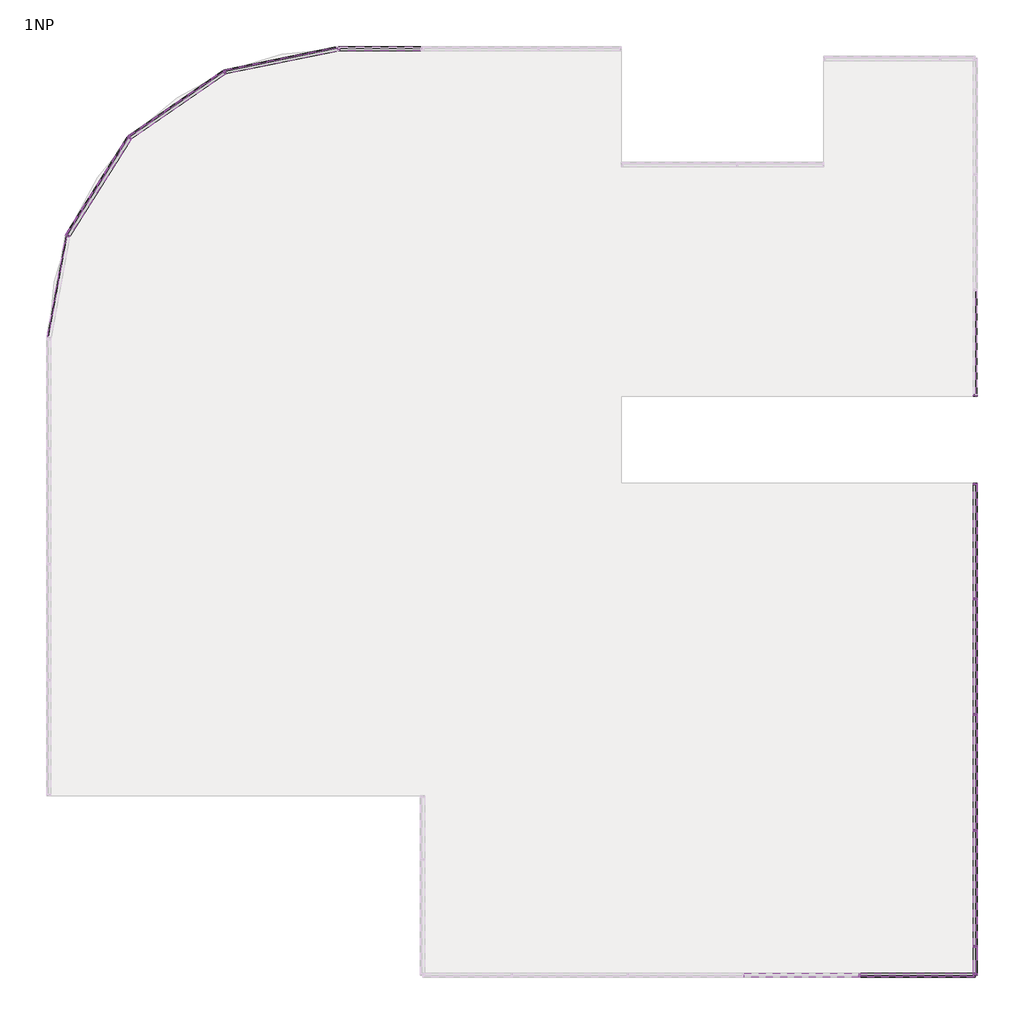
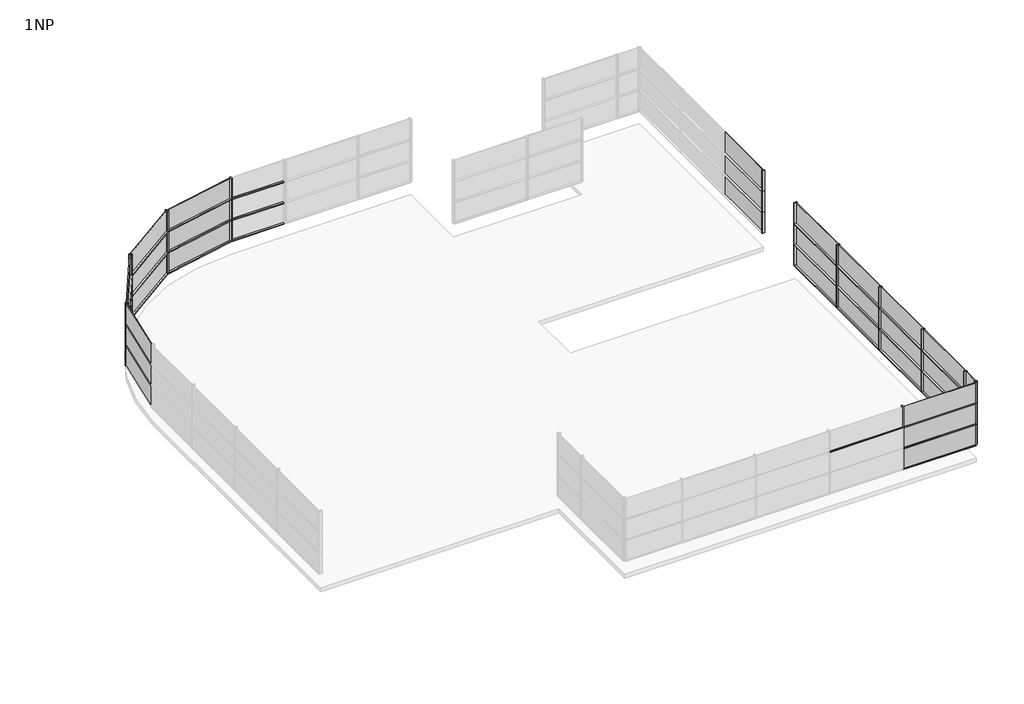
# One storey, part 2 of 4: 68 members, 33 plates.
"""IFC4 building model written with IfcOpenShell, lengths in millimetres."""

from ifc_helpers import new_model, si_unit, origin, place, context, project, spatial, transform, mapped, element, save
from components import rectangular_mullion_50_x_150mm_d99dc9be, rectangular_mullion_50_x_150mm_6588f46c, rectangular_mullion_50_x_150mm_a037c29c, rectangular_mullion_50_x_150mm_c2546fd4, rectangular_mullion_50_x_150mm_116cff39, rectangular_mullion_50_x_150mm_6d604593, rectangular_mullion_50_x_150mm_99029072, rectangular_mullion_50_x_150mm_662445cf, system_panel_glazed_8e9402eb, system_panel_glazed_89ac83a7, system_panel_glazed_5566c609, system_panel_glazed_8c18451d, system_panel_glazed_f47374c1, system_panel_glazed_c3dc520e, system_panel_glazed_01c601c5

model = new_model("IFC4")

# Units and contexts
model_context = context("Model", 3, world=origin())
ifc_project = project(units=[si_unit("LENGTHUNIT", "METRE", prefix="MILLI")], contexts=[model_context])

# Site, building, storey
site = spatial("IfcSite", under=ifc_project)
building = spatial("IfcBuilding", under=site)
storey = spatial("IfcBuildingStorey", under=building, Name="1NP", Elevation=4000.0)

# Members
placement = place(None, origin())
rectangular_mullion_50_x_150mm_shape = rectangular_mullion_50_x_150mm_d99dc9be(model_context)
element("IfcMember", 1, ObjectType="Rectangular Mullion : 50 x 150mm", at=placement, inside=storey, context=model_context, shape_type="MappedRepresentation", body=[
    mapped(rectangular_mullion_50_x_150mm_shape, transform((13503.2660975, -10624.0160434, 6000.0), x_axis=(0.0, -1.0, 0.0), y_axis=(1.0, 0.0, 0.0), z_axis=(0.0, 0.0, 1.0))),
])
element("IfcMember", 2, ObjectType="Rectangular Mullion : 50 x 150mm", at=placement, inside=storey, context=model_context, shape_type="MappedRepresentation", body=[
    mapped(rectangular_mullion_50_x_150mm_shape, transform((13503.2660975, -10624.0160434, 7200.0), x_axis=(0.0, -1.0, 0.0), y_axis=(1.0, 0.0, 0.0), z_axis=(0.0, 0.0, 1.0))),
])
element("IfcMember", 3, ObjectType="Rectangular Mullion : 50 x 150mm", at=placement, inside=storey, context=model_context, shape_type="MappedRepresentation", body=[
    mapped(rectangular_mullion_50_x_150mm_shape, transform((13503.2660975, -10624.0160434, 8400.0), x_axis=(0.0, -1.0, 0.0), y_axis=(1.0, 0.0, 0.0), z_axis=(0.0, 0.0, 1.0))),
])
element("IfcMember", 4, ObjectType="Rectangular Mullion : 50 x 150mm", at=placement, inside=storey, context=model_context, shape_type="MappedRepresentation", body=[
    mapped(rectangular_mullion_50_x_150mm_shape, transform((13503.2660975, -14624.0160434, 6000.0), x_axis=(0.0, -1.0, 0.0), y_axis=(1.0, 0.0, 0.0), z_axis=(0.0, 0.0, 1.0))),
])
element("IfcMember", 5, ObjectType="Rectangular Mullion : 50 x 150mm", at=placement, inside=storey, context=model_context, shape_type="MappedRepresentation", body=[
    mapped(rectangular_mullion_50_x_150mm_shape, transform((13503.2660975, -14624.0160434, 7200.0), x_axis=(0.0, -1.0, 0.0), y_axis=(1.0, 0.0, 0.0), z_axis=(0.0, 0.0, 1.0))),
])
element("IfcMember", 6, ObjectType="Rectangular Mullion : 50 x 150mm", at=placement, inside=storey, context=model_context, shape_type="MappedRepresentation", body=[
    mapped(rectangular_mullion_50_x_150mm_shape, transform((13503.2660975, -14624.0160434, 8400.0), x_axis=(0.0, -1.0, 0.0), y_axis=(1.0, 0.0, 0.0), z_axis=(0.0, 0.0, 1.0))),
])
element("IfcMember", 7, ObjectType="Rectangular Mullion : 50 x 150mm", at=placement, inside=storey, context=model_context, shape_type="MappedRepresentation", body=[
    mapped(rectangular_mullion_50_x_150mm_shape, transform((13503.2660975, -18624.0160434, 6000.0), x_axis=(0.0, -1.0, 0.0), y_axis=(1.0, 0.0, 0.0), z_axis=(0.0, 0.0, 1.0))),
])
element("IfcMember", 8, ObjectType="Rectangular Mullion : 50 x 150mm", at=placement, inside=storey, context=model_context, shape_type="MappedRepresentation", body=[
    mapped(rectangular_mullion_50_x_150mm_shape, transform((13503.2660975, -18624.0160434, 7200.0), x_axis=(0.0, -1.0, 0.0), y_axis=(1.0, 0.0, 0.0), z_axis=(0.0, 0.0, 1.0))),
])
element("IfcMember", 9, ObjectType="Rectangular Mullion : 50 x 150mm", at=placement, inside=storey, context=model_context, shape_type="MappedRepresentation", body=[
    mapped(rectangular_mullion_50_x_150mm_shape, transform((13503.2660975, -18624.0160434, 8400.0), x_axis=(0.0, -1.0, 0.0), y_axis=(1.0, 0.0, 0.0), z_axis=(0.0, 0.0, 1.0))),
])
element("IfcMember", 10, ObjectType="Rectangular Mullion : 50 x 150mm", at=placement, inside=storey, context=model_context, shape_type="MappedRepresentation", body=[
    mapped(rectangular_mullion_50_x_150mm_shape, transform((13503.2660975, -22624.0160434, 6000.0), x_axis=(0.0, -1.0, 0.0), y_axis=(1.0, 0.0, 0.0), z_axis=(0.0, 0.0, 1.0))),
])
element("IfcMember", 11, ObjectType="Rectangular Mullion : 50 x 150mm", at=placement, inside=storey, context=model_context, shape_type="MappedRepresentation", body=[
    mapped(rectangular_mullion_50_x_150mm_shape, transform((13503.2660975, -22624.0160434, 7200.0), x_axis=(0.0, -1.0, 0.0), y_axis=(1.0, 0.0, 0.0), z_axis=(0.0, 0.0, 1.0))),
])
element("IfcMember", 12, ObjectType="Rectangular Mullion : 50 x 150mm", at=placement, inside=storey, context=model_context, shape_type="MappedRepresentation", body=[
    mapped(rectangular_mullion_50_x_150mm_shape, transform((13503.2660975, -22624.0160434, 8400.0), x_axis=(0.0, -1.0, 0.0), y_axis=(1.0, 0.0, 0.0), z_axis=(0.0, 0.0, 1.0))),
])
element("IfcMember", 13, ObjectType="Rectangular Mullion : 50 x 150mm", at=placement, inside=storey, context=model_context, shape_type="MappedRepresentation", body=[
    mapped(rectangular_mullion_50_x_150mm_shape, transform((9503.2660975, -23624.0160434, 8400.0), x_axis=(-1.0, 0.0, 0.0), y_axis=(0.0, -1.0, 0.0), z_axis=(0.0, 0.0, 1.0))),
])
rectangular_mullion_50_x_150mm_2_shape = rectangular_mullion_50_x_150mm_6588f46c(model_context)
element("IfcMember", 14, ObjectType="Rectangular Mullion : 50 x 150mm", at=placement, inside=storey, context=model_context, shape_type="MappedRepresentation", body=[
    mapped(rectangular_mullion_50_x_150mm_2_shape, transform((13503.2660975, -3624.0160434, 8400.0), x_axis=(0.0, -1.0, 0.0), y_axis=(1.0, 0.0, 0.0), z_axis=(0.0, 0.0, 1.0))),
])
element("IfcMember", 15, ObjectType="Rectangular Mullion : 50 x 150mm", at=placement, inside=storey, context=model_context, shape_type="MappedRepresentation", body=[
    mapped(rectangular_mullion_50_x_150mm_2_shape, transform((13503.2660975, -3624.0160434, 7200.0), x_axis=(0.0, -1.0, 0.0), y_axis=(1.0, 0.0, 0.0), z_axis=(0.0, 0.0, 1.0))),
])
element("IfcMember", 16, ObjectType="Rectangular Mullion : 50 x 150mm", at=placement, inside=storey, context=model_context, shape_type="MappedRepresentation", body=[
    mapped(rectangular_mullion_50_x_150mm_2_shape, transform((13503.2660975, -3624.0160434, 6000.0), x_axis=(0.0, -1.0, 0.0), y_axis=(1.0, 0.0, 0.0), z_axis=(0.0, 0.0, 1.0))),
])
element("IfcMember", 17, ObjectType="Rectangular Mullion : 50 x 150mm", at=placement, inside=storey, context=model_context, shape_type="MappedRepresentation", body=[
    mapped(rectangular_mullion_50_x_150mm_2_shape, transform((13503.2660975, -23624.0160434, 6000.0), x_axis=(0.0, -1.0, 0.0), y_axis=(1.0, 0.0, 0.0), z_axis=(0.0, 0.0, 1.0))),
])
element("IfcMember", 18, ObjectType="Rectangular Mullion : 50 x 150mm", at=placement, inside=storey, context=model_context, shape_type="MappedRepresentation", body=[
    mapped(rectangular_mullion_50_x_150mm_2_shape, transform((13503.2660975, -23624.0160434, 7200.0), x_axis=(0.0, -1.0, 0.0), y_axis=(1.0, 0.0, 0.0), z_axis=(0.0, 0.0, 1.0))),
])
element("IfcMember", 19, ObjectType="Rectangular Mullion : 50 x 150mm", at=placement, inside=storey, context=model_context, shape_type="MappedRepresentation", body=[
    mapped(rectangular_mullion_50_x_150mm_2_shape, transform((13503.2660975, -23624.0160434, 8400.0), x_axis=(0.0, -1.0, 0.0), y_axis=(1.0, 0.0, 0.0), z_axis=(0.0, 0.0, 1.0))),
])
rectangular_mullion_50_x_150mm_3_shape = rectangular_mullion_50_x_150mm_a037c29c(model_context)
element("IfcMember", 20, ObjectType="Rectangular Mullion : 50 x 150mm", at=placement, inside=storey, context=model_context, shape_type="MappedRepresentation", body=[
    mapped(rectangular_mullion_50_x_150mm_3_shape, transform((13503.2660975, -18649.0160434, 6000.0), x_axis=(0.0, 0.0, 1.0), y_axis=(1.0, 0.0, 0.0), z_axis=(0.0, 1.0, 0.0))),
])
element("IfcMember", 21, ObjectType="Rectangular Mullion : 50 x 150mm", at=placement, inside=storey, context=model_context, shape_type="MappedRepresentation", body=[
    mapped(rectangular_mullion_50_x_150mm_3_shape, transform((13503.2660975, -10649.0160434, 7200.0), x_axis=(0.0, 0.0, 1.0), y_axis=(1.0, 0.0, 0.0), z_axis=(0.0, 1.0, 0.0))),
])
element("IfcMember", 22, ObjectType="Rectangular Mullion : 50 x 150mm", at=placement, inside=storey, context=model_context, shape_type="MappedRepresentation", body=[
    mapped(rectangular_mullion_50_x_150mm_3_shape, transform((13503.2660975, -14649.0160434, 7200.0), x_axis=(0.0, 0.0, 1.0), y_axis=(1.0, 0.0, 0.0), z_axis=(0.0, 1.0, 0.0))),
])
element("IfcMember", 23, ObjectType="Rectangular Mullion : 50 x 150mm", at=placement, inside=storey, context=model_context, shape_type="MappedRepresentation", body=[
    mapped(rectangular_mullion_50_x_150mm_3_shape, transform((13503.2660975, -18649.0160434, 7200.0), x_axis=(0.0, 0.0, 1.0), y_axis=(1.0, 0.0, 0.0), z_axis=(0.0, 1.0, 0.0))),
])
element("IfcMember", 24, ObjectType="Rectangular Mullion : 50 x 150mm", at=placement, inside=storey, context=model_context, shape_type="MappedRepresentation", body=[
    mapped(rectangular_mullion_50_x_150mm_3_shape, transform((13503.2660975, -10649.0160434, 4800.0), x_axis=(0.0, 0.0, 1.0), y_axis=(1.0, 0.0, 0.0), z_axis=(0.0, 1.0, 0.0))),
])
element("IfcMember", 25, ObjectType="Rectangular Mullion : 50 x 150mm", at=placement, inside=storey, context=model_context, shape_type="MappedRepresentation", body=[
    mapped(rectangular_mullion_50_x_150mm_3_shape, transform((13503.2660975, -14649.0160434, 4800.0), x_axis=(0.0, 0.0, 1.0), y_axis=(1.0, 0.0, 0.0), z_axis=(0.0, 1.0, 0.0))),
])
element("IfcMember", 26, ObjectType="Rectangular Mullion : 50 x 150mm", at=placement, inside=storey, context=model_context, shape_type="MappedRepresentation", body=[
    mapped(rectangular_mullion_50_x_150mm_3_shape, transform((13503.2660975, -18649.0160434, 4800.0), x_axis=(0.0, 0.0, 1.0), y_axis=(1.0, 0.0, 0.0), z_axis=(0.0, 1.0, 0.0))),
])
element("IfcMember", 27, ObjectType="Rectangular Mullion : 50 x 150mm", at=placement, inside=storey, context=model_context, shape_type="MappedRepresentation", body=[
    mapped(rectangular_mullion_50_x_150mm_3_shape, transform((13503.2660975, -10649.0160434, 6000.0), x_axis=(0.0, 0.0, 1.0), y_axis=(1.0, 0.0, 0.0), z_axis=(0.0, 1.0, 0.0))),
])
element("IfcMember", 28, ObjectType="Rectangular Mullion : 50 x 150mm", at=placement, inside=storey, context=model_context, shape_type="MappedRepresentation", body=[
    mapped(rectangular_mullion_50_x_150mm_3_shape, transform((13503.2660975, -14649.0160434, 6000.0), x_axis=(0.0, 0.0, 1.0), y_axis=(1.0, 0.0, 0.0), z_axis=(0.0, 1.0, 0.0))),
])
element("IfcMember", 29, ObjectType="Rectangular Mullion : 50 x 150mm", at=placement, inside=storey, context=model_context, shape_type="MappedRepresentation", body=[
    mapped(rectangular_mullion_50_x_150mm_3_shape, transform((9478.2660975, -23624.0160434, 7200.0), x_axis=(0.0, 0.0, 1.0), y_axis=(0.0, -1.0, 0.0), z_axis=(1.0, 0.0, 0.0))),
])
rectangular_mullion_50_x_150mm_4_shape = rectangular_mullion_50_x_150mm_c2546fd4(model_context)
element("IfcMember", 30, ObjectType="Rectangular Mullion : 50 x 150mm", at=placement, inside=storey, context=model_context, shape_type="MappedRepresentation", body=[
    mapped(rectangular_mullion_50_x_150mm_4_shape, transform((13503.2660975, -6674.0160434, 7200.0), x_axis=(0.0, 0.0, 1.0), y_axis=(1.0, 0.0, 0.0), z_axis=(0.0, 1.0, 0.0))),
])
element("IfcMember", 31, ObjectType="Rectangular Mullion : 50 x 150mm", at=placement, inside=storey, context=model_context, shape_type="MappedRepresentation", body=[
    mapped(rectangular_mullion_50_x_150mm_4_shape, transform((13503.2660975, -6674.0160434, 4800.0), x_axis=(0.0, 0.0, 1.0), y_axis=(1.0, 0.0, 0.0), z_axis=(0.0, 1.0, 0.0))),
])
element("IfcMember", 32, ObjectType="Rectangular Mullion : 50 x 150mm", at=placement, inside=storey, context=model_context, shape_type="MappedRepresentation", body=[
    mapped(rectangular_mullion_50_x_150mm_4_shape, transform((13503.2660975, -6674.0160434, 6000.0), x_axis=(0.0, 0.0, 1.0), y_axis=(1.0, 0.0, 0.0), z_axis=(0.0, 1.0, 0.0))),
])
element("IfcMember", 33, ObjectType="Rectangular Mullion : 50 x 150mm", at=placement, inside=storey, context=model_context, shape_type="MappedRepresentation", body=[
    mapped(rectangular_mullion_50_x_150mm_4_shape, transform((13453.2660975, -23624.0160434, 4800.0), x_axis=(0.0, 0.0, 1.0), y_axis=(0.0, -1.0, 0.0), z_axis=(1.0, 0.0, 0.0))),
])
element("IfcMember", 34, ObjectType="Rectangular Mullion : 50 x 150mm", at=placement, inside=storey, context=model_context, shape_type="MappedRepresentation", body=[
    mapped(rectangular_mullion_50_x_150mm_4_shape, transform((13453.2660975, -23624.0160434, 6000.0), x_axis=(0.0, 0.0, 1.0), y_axis=(0.0, -1.0, 0.0), z_axis=(1.0, 0.0, 0.0))),
])
element("IfcMember", 35, ObjectType="Rectangular Mullion : 50 x 150mm", at=placement, inside=storey, context=model_context, shape_type="MappedRepresentation", body=[
    mapped(rectangular_mullion_50_x_150mm_4_shape, transform((13453.2660975, -23624.0160434, 7200.0), x_axis=(0.0, 0.0, 1.0), y_axis=(0.0, -1.0, 0.0), z_axis=(1.0, 0.0, 0.0))),
])
element("IfcMember", 36, ObjectType="Rectangular Mullion : 50 x 150mm", at=placement, inside=storey, context=model_context, shape_type="MappedRepresentation", body=[
    mapped(rectangular_mullion_50_x_150mm_2_shape, transform((13503.2660975, -6624.0160434, 4800.0), x_axis=(0.0, 1.0, 0.0), y_axis=(1.0, 0.0, 0.0), z_axis=(0.0, 0.0, -1.0))),
])
element("IfcMember", 37, ObjectType="Rectangular Mullion : 50 x 150mm", at=placement, inside=storey, context=model_context, shape_type="MappedRepresentation", body=[
    mapped(rectangular_mullion_50_x_150mm_2_shape, transform((13503.2660975, -6624.0160434, 6000.0), x_axis=(0.0, 1.0, 0.0), y_axis=(1.0, 0.0, 0.0), z_axis=(0.0, 0.0, -1.0))),
])
element("IfcMember", 38, ObjectType="Rectangular Mullion : 50 x 150mm", at=placement, inside=storey, context=model_context, shape_type="MappedRepresentation", body=[
    mapped(rectangular_mullion_50_x_150mm_2_shape, transform((13503.2660975, -6624.0160434, 7200.0), x_axis=(0.0, 1.0, 0.0), y_axis=(1.0, 0.0, 0.0), z_axis=(0.0, 0.0, -1.0))),
])
element("IfcMember", 39, ObjectType="Rectangular Mullion : 50 x 150mm", at=placement, inside=storey, context=model_context, shape_type="MappedRepresentation", body=[
    mapped(rectangular_mullion_50_x_150mm_2_shape, transform((13503.2660975, -23624.0160434, 4800.0), x_axis=(1.0, 0.0, 0.0), y_axis=(0.0, -1.0, 0.0), z_axis=(0.0, 0.0, -1.0))),
])
element("IfcMember", 40, ObjectType="Rectangular Mullion : 50 x 150mm", at=placement, inside=storey, context=model_context, shape_type="MappedRepresentation", body=[
    mapped(rectangular_mullion_50_x_150mm_2_shape, transform((13503.2660975, -23624.0160434, 6000.0), x_axis=(1.0, 0.0, 0.0), y_axis=(0.0, -1.0, 0.0), z_axis=(0.0, 0.0, -1.0))),
])
element("IfcMember", 41, ObjectType="Rectangular Mullion : 50 x 150mm", at=placement, inside=storey, context=model_context, shape_type="MappedRepresentation", body=[
    mapped(rectangular_mullion_50_x_150mm_2_shape, transform((13503.2660975, -23624.0160434, 7200.0), x_axis=(1.0, 0.0, 0.0), y_axis=(0.0, -1.0, 0.0), z_axis=(0.0, 0.0, -1.0))),
])
element("IfcMember", 42, ObjectType="Rectangular Mullion : 50 x 150mm", at=placement, inside=storey, context=model_context, shape_type="MappedRepresentation", body=[
    mapped(rectangular_mullion_50_x_150mm_2_shape, transform((-8496.7339025, 8375.9839566, 4800.0), x_axis=(-1.0, 0.0, 0.0), y_axis=(0.0, 1.0, 0.0), z_axis=(0.0, 0.0, -1.0))),
])
element("IfcMember", 43, ObjectType="Rectangular Mullion : 50 x 150mm", at=placement, inside=storey, context=model_context, shape_type="MappedRepresentation", body=[
    mapped(rectangular_mullion_50_x_150mm_2_shape, transform((-8496.7339025, 8375.9839566, 6000.0), x_axis=(-1.0, 0.0, 0.0), y_axis=(0.0, 1.0, 0.0), z_axis=(0.0, 0.0, -1.0))),
])
element("IfcMember", 44, ObjectType="Rectangular Mullion : 50 x 150mm", at=placement, inside=storey, context=model_context, shape_type="MappedRepresentation", body=[
    mapped(rectangular_mullion_50_x_150mm_2_shape, transform((-8496.7339025, 8375.9839566, 7200.0), x_axis=(-1.0, 0.0, 0.0), y_axis=(0.0, 1.0, 0.0), z_axis=(0.0, 0.0, -1.0))),
])
rectangular_mullion_50_x_150mm_5_shape = rectangular_mullion_50_x_150mm_116cff39(model_context)
element("IfcMember", 45, ObjectType="Rectangular Mullion : 50 x 150mm", at=placement, inside=storey, context=model_context, shape_type="MappedRepresentation", body=[
    mapped(rectangular_mullion_50_x_150mm_5_shape, transform((13503.2660975, -22649.0160434, 6000.0), x_axis=(0.0, 0.0, 1.0), y_axis=(1.0, 0.0, 0.0), z_axis=(0.0, 1.0, 0.0))),
])
element("IfcMember", 46, ObjectType="Rectangular Mullion : 50 x 150mm", at=placement, inside=storey, context=model_context, shape_type="MappedRepresentation", body=[
    mapped(rectangular_mullion_50_x_150mm_5_shape, transform((13503.2660975, -22649.0160434, 7200.0), x_axis=(0.0, 0.0, 1.0), y_axis=(1.0, 0.0, 0.0), z_axis=(0.0, 1.0, 0.0))),
])
element("IfcMember", 47, ObjectType="Rectangular Mullion : 50 x 150mm", at=placement, inside=storey, context=model_context, shape_type="MappedRepresentation", body=[
    mapped(rectangular_mullion_50_x_150mm_5_shape, transform((13503.2660975, -22649.0160434, 4800.0), x_axis=(0.0, 0.0, 1.0), y_axis=(1.0, 0.0, 0.0), z_axis=(0.0, 1.0, 0.0))),
])
rectangular_mullion_50_x_150mm_6_shape = rectangular_mullion_50_x_150mm_6d604593(model_context)
element("IfcMember", 48, ObjectType="Rectangular Mullion : 50 x 150mm", at=placement, inside=storey, context=model_context, shape_type="MappedRepresentation", body=[
    mapped(rectangular_mullion_50_x_150mm_6_shape, transform((-8446.7339025, 8375.9839566, 4800.0), x_axis=(0.0, 0.0, 1.0), y_axis=(0.0, 1.0, 0.0), z_axis=(-1.0, 0.0, 0.0))),
])
element("IfcMember", 49, ObjectType="Rectangular Mullion : 50 x 150mm", at=placement, inside=storey, context=model_context, shape_type="MappedRepresentation", body=[
    mapped(rectangular_mullion_50_x_150mm_6_shape, transform((-8446.7339025, 8375.9839566, 6000.0), x_axis=(0.0, 0.0, 1.0), y_axis=(0.0, 1.0, 0.0), z_axis=(-1.0, 0.0, 0.0))),
])
element("IfcMember", 50, ObjectType="Rectangular Mullion : 50 x 150mm", at=placement, inside=storey, context=model_context, shape_type="MappedRepresentation", body=[
    mapped(rectangular_mullion_50_x_150mm_6_shape, transform((-8446.7339025, 8375.9839566, 7200.0), x_axis=(0.0, 0.0, 1.0), y_axis=(0.0, 1.0, 0.0), z_axis=(-1.0, 0.0, 0.0))),
])
rectangular_mullion_50_x_150mm_7_shape = rectangular_mullion_50_x_150mm_99029072(model_context)
element("IfcMember", 51, ObjectType="Rectangular Mullion : 50 x 150mm", at=placement, inside=storey, context=model_context, shape_type="MappedRepresentation", body=[
    mapped(rectangular_mullion_50_x_150mm_7_shape, transform((-15687.4559914, 5318.1839566, 4800.0), x_axis=(0.0, 0.0, 1.0), y_axis=(-0.5680000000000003, 0.8230285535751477, 0.0), z_axis=(-0.8230285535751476, -0.5680000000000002, 0.0))),
])
element("IfcMember", 52, ObjectType="Rectangular Mullion : 50 x 150mm", at=placement, inside=storey, context=model_context, shape_type="MappedRepresentation", body=[
    mapped(rectangular_mullion_50_x_150mm_7_shape, transform((-17832.9738551, 1944.6319566, 4800.0), x_axis=(0.0, 0.0, 1.0), y_axis=(-0.84512, 0.534576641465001, 0.0), z_axis=(-0.534576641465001, -0.84512, 0.0))),
])
element("IfcMember", 53, ObjectType="Rectangular Mullion : 50 x 150mm", at=placement, inside=storey, context=model_context, shape_type="MappedRepresentation", body=[
    mapped(rectangular_mullion_50_x_150mm_7_shape, transform((-15687.4559914, 5318.1839566, 6000.0), x_axis=(0.0, 0.0, 1.0), y_axis=(-0.5680000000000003, 0.8230285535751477, 0.0), z_axis=(-0.8230285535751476, -0.5680000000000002, 0.0))),
])
element("IfcMember", 54, ObjectType="Rectangular Mullion : 50 x 150mm", at=placement, inside=storey, context=model_context, shape_type="MappedRepresentation", body=[
    mapped(rectangular_mullion_50_x_150mm_7_shape, transform((-17832.9738551, 1944.6319566, 6000.0), x_axis=(0.0, 0.0, 1.0), y_axis=(-0.84512, 0.534576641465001, 0.0), z_axis=(-0.534576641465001, -0.84512, 0.0))),
])
element("IfcMember", 55, ObjectType="Rectangular Mullion : 50 x 150mm", at=placement, inside=storey, context=model_context, shape_type="MappedRepresentation", body=[
    mapped(rectangular_mullion_50_x_150mm_7_shape, transform((-15687.4559914, 5318.1839566, 7200.0), x_axis=(0.0, 0.0, 1.0), y_axis=(-0.5680000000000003, 0.8230285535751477, 0.0), z_axis=(-0.8230285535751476, -0.5680000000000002, 0.0))),
])
element("IfcMember", 56, ObjectType="Rectangular Mullion : 50 x 150mm", at=placement, inside=storey, context=model_context, shape_type="MappedRepresentation", body=[
    mapped(rectangular_mullion_50_x_150mm_7_shape, transform((-17832.9738551, 1944.6319566, 7200.0), x_axis=(0.0, 0.0, 1.0), y_axis=(-0.84512, 0.534576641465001, 0.0), z_axis=(-0.534576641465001, -0.84512, 0.0))),
])
rectangular_mullion_50_x_150mm_8_shape = rectangular_mullion_50_x_150mm_662445cf(model_context)
element("IfcMember", 57, ObjectType="Rectangular Mullion : 50 x 150mm", at=placement, inside=storey, context=model_context, shape_type="MappedRepresentation", body=[
    mapped(rectangular_mullion_50_x_150mm_8_shape, transform((-12391.4225935, 7580.9839566, 4800.0), x_axis=(0.0, 0.0, 1.0), y_axis=(-0.19999999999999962, 0.9797958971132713, 0.0), z_axis=(-0.9797958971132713, -0.19999999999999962, 0.0))),
])
element("IfcMember", 58, ObjectType="Rectangular Mullion : 50 x 150mm", at=placement, inside=storey, context=model_context, shape_type="MappedRepresentation", body=[
    mapped(rectangular_mullion_50_x_150mm_8_shape, transform((-12391.4225935, 7580.9839566, 6000.0), x_axis=(0.0, 0.0, 1.0), y_axis=(-0.19999999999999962, 0.9797958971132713, 0.0), z_axis=(-0.9797958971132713, -0.19999999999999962, 0.0))),
])
element("IfcMember", 59, ObjectType="Rectangular Mullion : 50 x 150mm", at=placement, inside=storey, context=model_context, shape_type="MappedRepresentation", body=[
    mapped(rectangular_mullion_50_x_150mm_8_shape, transform((-12391.4225935, 7580.9839566, 7200.0), x_axis=(0.0, 0.0, 1.0), y_axis=(-0.19999999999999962, 0.9797958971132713, 0.0), z_axis=(-0.9797958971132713, -0.19999999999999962, 0.0))),
])
element("IfcMember", 60, ObjectType="Rectangular Mullion : 50 x 150mm", at=placement, inside=storey, context=model_context, shape_type="MappedRepresentation", body=[
    mapped(rectangular_mullion_50_x_150mm_shape, transform((-12415.9174909, 7575.9839566, 4800.0), x_axis=(-0.92, -0.3919183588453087, 0.0), y_axis=(-0.3919183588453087, 0.92, 0.0), z_axis=(0.0, 0.0, -1.0))),
])
element("IfcMember", 61, ObjectType="Rectangular Mullion : 50 x 150mm", at=placement, inside=storey, context=model_context, shape_type="MappedRepresentation", body=[
    mapped(rectangular_mullion_50_x_150mm_shape, transform((-12415.9174909, 7575.9839566, 6000.0), x_axis=(-0.92, -0.3919183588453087, 0.0), y_axis=(-0.3919183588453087, 0.92, 0.0), z_axis=(0.0, 0.0, -1.0))),
])
element("IfcMember", 62, ObjectType="Rectangular Mullion : 50 x 150mm", at=placement, inside=storey, context=model_context, shape_type="MappedRepresentation", body=[
    mapped(rectangular_mullion_50_x_150mm_shape, transform((-12415.9174909, 7575.9839566, 7200.0), x_axis=(-0.92, -0.3919183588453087, 0.0), y_axis=(-0.3919183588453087, 0.92, 0.0), z_axis=(0.0, 0.0, -1.0))),
])
element("IfcMember", 63, ObjectType="Rectangular Mullion : 50 x 150mm", at=placement, inside=storey, context=model_context, shape_type="MappedRepresentation", body=[
    mapped(rectangular_mullion_50_x_150mm_shape, transform((-15708.0317052, 5303.9839566, 4800.0), x_axis=(-0.6927999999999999, -0.7211297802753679, 0.0), y_axis=(-0.7211297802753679, 0.6927999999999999, 0.0), z_axis=(0.0, 0.0, -1.0))),
])
element("IfcMember", 64, ObjectType="Rectangular Mullion : 50 x 150mm", at=placement, inside=storey, context=model_context, shape_type="MappedRepresentation", body=[
    mapped(rectangular_mullion_50_x_150mm_shape, transform((-15708.0317052, 5303.9839566, 6000.0), x_axis=(-0.6927999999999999, -0.7211297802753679, 0.0), y_axis=(-0.7211297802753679, 0.6927999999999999, 0.0), z_axis=(0.0, 0.0, -1.0))),
])
element("IfcMember", 65, ObjectType="Rectangular Mullion : 50 x 150mm", at=placement, inside=storey, context=model_context, shape_type="MappedRepresentation", body=[
    mapped(rectangular_mullion_50_x_150mm_shape, transform((-15708.0317052, 5303.9839566, 7200.0), x_axis=(-0.6927999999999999, -0.7211297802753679, 0.0), y_axis=(-0.7211297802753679, 0.6927999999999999, 0.0), z_axis=(0.0, 0.0, -1.0))),
])
element("IfcMember", 66, ObjectType="Rectangular Mullion : 50 x 150mm", at=placement, inside=storey, context=model_context, shape_type="MappedRepresentation", body=[
    mapped(rectangular_mullion_50_x_150mm_shape, transform((-17846.3382711, 1923.5039566, 4800.0), x_axis=(-0.35475199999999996, -0.934960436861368, 0.0), y_axis=(-0.934960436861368, 0.35475199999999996, 0.0), z_axis=(0.0, 0.0, -1.0))),
])
element("IfcMember", 67, ObjectType="Rectangular Mullion : 50 x 150mm", at=placement, inside=storey, context=model_context, shape_type="MappedRepresentation", body=[
    mapped(rectangular_mullion_50_x_150mm_shape, transform((-17846.3382711, 1923.5039566, 6000.0), x_axis=(-0.35475199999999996, -0.934960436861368, 0.0), y_axis=(-0.934960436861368, 0.35475199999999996, 0.0), z_axis=(0.0, 0.0, -1.0))),
])
element("IfcMember", 68, ObjectType="Rectangular Mullion : 50 x 150mm", at=placement, inside=storey, context=model_context, shape_type="MappedRepresentation", body=[
    mapped(rectangular_mullion_50_x_150mm_shape, transform((-17846.3382711, 1923.5039566, 7200.0), x_axis=(-0.35475199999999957, -0.9349604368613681, 0.0), y_axis=(-0.9349604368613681, 0.35475199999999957, 0.0), z_axis=(0.0, 0.0, -1.0))),
])

# Plates
system_panel_glazed_shape = system_panel_glazed_8e9402eb(model_context)
element("IfcPlate", 69, ObjectType="System Panel : Glazed", at=placement, inside=storey, context=model_context, shape_type="MappedRepresentation", body=[
    mapped(system_panel_glazed_shape, transform((11490.7660975, -23624.0160434, 4825.0), x_axis=(-1.0, 0.0, 0.0), y_axis=(0.0, -1.0, 0.0), z_axis=(0.0, 0.0, 1.0))),
])
element("IfcPlate", 70, ObjectType="System Panel : Glazed", at=placement, inside=storey, context=model_context, shape_type="MappedRepresentation", body=[
    mapped(system_panel_glazed_shape, transform((11490.7660975, -23624.0160434, 6025.0), x_axis=(-1.0, 0.0, 0.0), y_axis=(0.0, -1.0, 0.0), z_axis=(0.0, 0.0, 1.0))),
])
element("IfcPlate", 71, ObjectType="System Panel : Glazed", at=placement, inside=storey, context=model_context, shape_type="MappedRepresentation", body=[
    mapped(system_panel_glazed_shape, transform((11490.7660975, -23624.0160434, 7225.0), x_axis=(-1.0, 0.0, 0.0), y_axis=(0.0, -1.0, 0.0), z_axis=(0.0, 0.0, 1.0))),
])
element("IfcPlate", 72, ObjectType="System Panel : Glazed", at=placement, inside=storey, context=model_context, shape_type="MappedRepresentation", body=[
    mapped(system_panel_glazed_shape, transform((13503.2660975, -8636.5160434, 4825.0), x_axis=(0.0, -1.0, 0.0), y_axis=(1.0, 0.0, 0.0), z_axis=(0.0, 0.0, 1.0))),
])
element("IfcPlate", 73, ObjectType="System Panel : Glazed", at=placement, inside=storey, context=model_context, shape_type="MappedRepresentation", body=[
    mapped(system_panel_glazed_shape, transform((13503.2660975, -8636.5160434, 6025.0), x_axis=(0.0, -1.0, 0.0), y_axis=(1.0, 0.0, 0.0), z_axis=(0.0, 0.0, 1.0))),
])
element("IfcPlate", 74, ObjectType="System Panel : Glazed", at=placement, inside=storey, context=model_context, shape_type="MappedRepresentation", body=[
    mapped(system_panel_glazed_shape, transform((13503.2660975, -8636.5160434, 7225.0), x_axis=(0.0, -1.0, 0.0), y_axis=(1.0, 0.0, 0.0), z_axis=(0.0, 0.0, 1.0))),
])
system_panel_glazed_2_shape = system_panel_glazed_89ac83a7(model_context)
element("IfcPlate", 75, ObjectType="System Panel : Glazed", at=placement, inside=storey, context=model_context, shape_type="MappedRepresentation", body=[
    mapped(system_panel_glazed_2_shape, transform((13503.2660975, -12624.0160434, 4825.0), x_axis=(0.0, -1.0, 0.0), y_axis=(1.0, 0.0, 0.0), z_axis=(0.0, 0.0, 1.0))),
])
element("IfcPlate", 76, ObjectType="System Panel : Glazed", at=placement, inside=storey, context=model_context, shape_type="MappedRepresentation", body=[
    mapped(system_panel_glazed_2_shape, transform((13503.2660975, -16624.0160434, 4825.0), x_axis=(0.0, -1.0, 0.0), y_axis=(1.0, 0.0, 0.0), z_axis=(0.0, 0.0, 1.0))),
])
element("IfcPlate", 77, ObjectType="System Panel : Glazed", at=placement, inside=storey, context=model_context, shape_type="MappedRepresentation", body=[
    mapped(system_panel_glazed_2_shape, transform((13503.2660975, -20624.0160434, 4825.0), x_axis=(0.0, -1.0, 0.0), y_axis=(1.0, 0.0, 0.0), z_axis=(0.0, 0.0, 1.0))),
])
element("IfcPlate", 78, ObjectType="System Panel : Glazed", at=placement, inside=storey, context=model_context, shape_type="MappedRepresentation", body=[
    mapped(system_panel_glazed_2_shape, transform((13503.2660975, -12624.0160434, 6025.0), x_axis=(0.0, -1.0, 0.0), y_axis=(1.0, 0.0, 0.0), z_axis=(0.0, 0.0, 1.0))),
])
element("IfcPlate", 79, ObjectType="System Panel : Glazed", at=placement, inside=storey, context=model_context, shape_type="MappedRepresentation", body=[
    mapped(system_panel_glazed_2_shape, transform((13503.2660975, -16624.0160434, 6025.0), x_axis=(0.0, -1.0, 0.0), y_axis=(1.0, 0.0, 0.0), z_axis=(0.0, 0.0, 1.0))),
])
element("IfcPlate", 80, ObjectType="System Panel : Glazed", at=placement, inside=storey, context=model_context, shape_type="MappedRepresentation", body=[
    mapped(system_panel_glazed_2_shape, transform((13503.2660975, -20624.0160434, 6025.0), x_axis=(0.0, -1.0, 0.0), y_axis=(1.0, 0.0, 0.0), z_axis=(0.0, 0.0, 1.0))),
])
element("IfcPlate", 81, ObjectType="System Panel : Glazed", at=placement, inside=storey, context=model_context, shape_type="MappedRepresentation", body=[
    mapped(system_panel_glazed_2_shape, transform((13503.2660975, -12624.0160434, 7225.0), x_axis=(0.0, -1.0, 0.0), y_axis=(1.0, 0.0, 0.0), z_axis=(0.0, 0.0, 1.0))),
])
element("IfcPlate", 82, ObjectType="System Panel : Glazed", at=placement, inside=storey, context=model_context, shape_type="MappedRepresentation", body=[
    mapped(system_panel_glazed_2_shape, transform((13503.2660975, -16624.0160434, 7225.0), x_axis=(0.0, -1.0, 0.0), y_axis=(1.0, 0.0, 0.0), z_axis=(0.0, 0.0, 1.0))),
])
element("IfcPlate", 83, ObjectType="System Panel : Glazed", at=placement, inside=storey, context=model_context, shape_type="MappedRepresentation", body=[
    mapped(system_panel_glazed_2_shape, transform((13503.2660975, -20624.0160434, 7225.0), x_axis=(0.0, -1.0, 0.0), y_axis=(1.0, 0.0, 0.0), z_axis=(0.0, 0.0, 1.0))),
])
system_panel_glazed_3_shape = system_panel_glazed_5566c609(model_context)
element("IfcPlate", 84, ObjectType="System Panel : Glazed", at=placement, inside=storey, context=model_context, shape_type="MappedRepresentation", body=[
    mapped(system_panel_glazed_3_shape, transform((13503.2660975, -1779.830251, 4825.0), x_axis=(0.0, -1.0, 0.0), y_axis=(1.0, 0.0, 0.0), z_axis=(0.0, 0.0, 1.0))),
])
element("IfcPlate", 85, ObjectType="System Panel : Glazed", at=placement, inside=storey, context=model_context, shape_type="MappedRepresentation", body=[
    mapped(system_panel_glazed_3_shape, transform((13503.2660975, -1779.830251, 6025.0), x_axis=(0.0, -1.0, 0.0), y_axis=(1.0, 0.0, 0.0), z_axis=(0.0, 0.0, 1.0))),
])
element("IfcPlate", 86, ObjectType="System Panel : Glazed", at=placement, inside=storey, context=model_context, shape_type="MappedRepresentation", body=[
    mapped(system_panel_glazed_3_shape, transform((13503.2660975, -1779.830251, 7225.0), x_axis=(0.0, -1.0, 0.0), y_axis=(1.0, 0.0, 0.0), z_axis=(0.0, 0.0, 1.0))),
])
system_panel_glazed_4_shape = system_panel_glazed_8c18451d(model_context)
element("IfcPlate", 87, ObjectType="System Panel : Glazed", at=placement, inside=storey, context=model_context, shape_type="MappedRepresentation", body=[
    mapped(system_panel_glazed_4_shape, transform((13503.2660975, -23111.5160434, 4825.0), x_axis=(0.0, -1.0, 0.0), y_axis=(1.0, 0.0, 0.0), z_axis=(0.0, 0.0, 1.0))),
])
element("IfcPlate", 88, ObjectType="System Panel : Glazed", at=placement, inside=storey, context=model_context, shape_type="MappedRepresentation", body=[
    mapped(system_panel_glazed_4_shape, transform((13503.2660975, -23111.5160434, 6025.0), x_axis=(0.0, -1.0, 0.0), y_axis=(1.0, 0.0, 0.0), z_axis=(0.0, 0.0, 1.0))),
])
element("IfcPlate", 89, ObjectType="System Panel : Glazed", at=placement, inside=storey, context=model_context, shape_type="MappedRepresentation", body=[
    mapped(system_panel_glazed_4_shape, transform((13503.2660975, -23111.5160434, 7225.0), x_axis=(0.0, -1.0, 0.0), y_axis=(1.0, 0.0, 0.0), z_axis=(0.0, 0.0, 1.0))),
])
system_panel_glazed_5_shape = system_panel_glazed_f47374c1(model_context)
element("IfcPlate", 90, ObjectType="System Panel : Glazed", at=placement, inside=storey, context=model_context, shape_type="MappedRepresentation", body=[
    mapped(system_panel_glazed_5_shape, transform((-10468.5731454, 7973.4839566, 4825.0), x_axis=(-0.9797958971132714, -0.1999999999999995, 0.0), y_axis=(0.1999999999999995, -0.9797958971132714, 0.0), z_axis=(0.0, 0.0, 1.0))),
])
element("IfcPlate", 91, ObjectType="System Panel : Glazed", at=placement, inside=storey, context=model_context, shape_type="MappedRepresentation", body=[
    mapped(system_panel_glazed_5_shape, transform((-10468.5731454, 7973.4839566, 6025.0), x_axis=(-0.9797958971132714, -0.1999999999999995, 0.0), y_axis=(0.1999999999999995, -0.9797958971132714, 0.0), z_axis=(0.0, 0.0, 1.0))),
])
element("IfcPlate", 92, ObjectType="System Panel : Glazed", at=placement, inside=storey, context=model_context, shape_type="MappedRepresentation", body=[
    mapped(system_panel_glazed_5_shape, transform((-10468.5731454, 7973.4839566, 7225.0), x_axis=(-0.9797958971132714, -0.1999999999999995, 0.0), y_axis=(0.1999999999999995, -0.9797958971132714, 0.0), z_axis=(0.0, 0.0, 1.0))),
])
system_panel_glazed_6_shape = system_panel_glazed_c3dc520e(model_context)
element("IfcPlate", 93, ObjectType="System Panel : Glazed", at=placement, inside=storey, context=model_context, shape_type="MappedRepresentation", body=[
    mapped(system_panel_glazed_6_shape, transform((-14061.9745981, 6439.9839566, 4825.0), x_axis=(-0.8230285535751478, -0.5680000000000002, 0.0), y_axis=(0.5680000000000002, -0.8230285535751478, 0.0), z_axis=(0.0, 0.0, 1.0))),
])
element("IfcPlate", 94, ObjectType="System Panel : Glazed", at=placement, inside=storey, context=model_context, shape_type="MappedRepresentation", body=[
    mapped(system_panel_glazed_6_shape, transform((-16777.1849882, 3613.7439566, 4825.0), x_axis=(-0.5345766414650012, -0.8451199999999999, 0.0), y_axis=(0.8451199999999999, -0.5345766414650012, 0.0), z_axis=(0.0, 0.0, 1.0))),
])
element("IfcPlate", 95, ObjectType="System Panel : Glazed", at=placement, inside=storey, context=model_context, shape_type="MappedRepresentation", body=[
    mapped(system_panel_glazed_6_shape, transform((-14061.9745981, 6439.9839566, 6025.0), x_axis=(-0.8230285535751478, -0.5680000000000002, 0.0), y_axis=(0.5680000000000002, -0.8230285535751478, 0.0), z_axis=(0.0, 0.0, 1.0))),
])
element("IfcPlate", 96, ObjectType="System Panel : Glazed", at=placement, inside=storey, context=model_context, shape_type="MappedRepresentation", body=[
    mapped(system_panel_glazed_6_shape, transform((-16777.1849882, 3613.7439566, 6025.0), x_axis=(-0.5345766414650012, -0.8451199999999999, 0.0), y_axis=(0.8451199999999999, -0.5345766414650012, 0.0), z_axis=(0.0, 0.0, 1.0))),
])
element("IfcPlate", 97, ObjectType="System Panel : Glazed", at=placement, inside=storey, context=model_context, shape_type="MappedRepresentation", body=[
    mapped(system_panel_glazed_6_shape, transform((-14061.9745981, 6439.9839566, 7225.0), x_axis=(-0.8230285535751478, -0.5680000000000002, 0.0), y_axis=(0.5680000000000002, -0.8230285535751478, 0.0), z_axis=(0.0, 0.0, 1.0))),
])
element("IfcPlate", 98, ObjectType="System Panel : Glazed", at=placement, inside=storey, context=model_context, shape_type="MappedRepresentation", body=[
    mapped(system_panel_glazed_6_shape, transform((-16777.1849882, 3613.7439566, 7225.0), x_axis=(-0.5345766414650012, -0.8451199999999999, 0.0), y_axis=(0.8451199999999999, -0.5345766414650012, 0.0), z_axis=(0.0, 0.0, 1.0))),
])
system_panel_glazed_7_shape = system_panel_glazed_01c601c5(model_context)
element("IfcPlate", 99, ObjectType="System Panel : Glazed", at=placement, inside=storey, context=model_context, shape_type="MappedRepresentation", body=[
    mapped(system_panel_glazed_7_shape, transform((-18169.2819315, 162.0390281, 4825.0), x_axis=(-0.18033241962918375, -0.9836057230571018, 0.0), y_axis=(0.9836057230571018, -0.18033241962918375, 0.0), z_axis=(0.0, 0.0, 1.0))),
])
element("IfcPlate", 100, ObjectType="System Panel : Glazed", at=placement, inside=storey, context=model_context, shape_type="MappedRepresentation", body=[
    mapped(system_panel_glazed_7_shape, transform((-18169.2819315, 162.0390281, 6025.0), x_axis=(-0.18033241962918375, -0.9836057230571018, 0.0), y_axis=(0.9836057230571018, -0.18033241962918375, 0.0), z_axis=(0.0, 0.0, 1.0))),
])
element("IfcPlate", 101, ObjectType="System Panel : Glazed", at=placement, inside=storey, context=model_context, shape_type="MappedRepresentation", body=[
    mapped(system_panel_glazed_7_shape, transform((-18169.2819315, 162.0390281, 7225.0), x_axis=(-0.18033241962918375, -0.9836057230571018, 0.0), y_axis=(0.9836057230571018, -0.18033241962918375, 0.0), z_axis=(0.0, 0.0, 1.0))),
])

save(model, "model.ifc")
